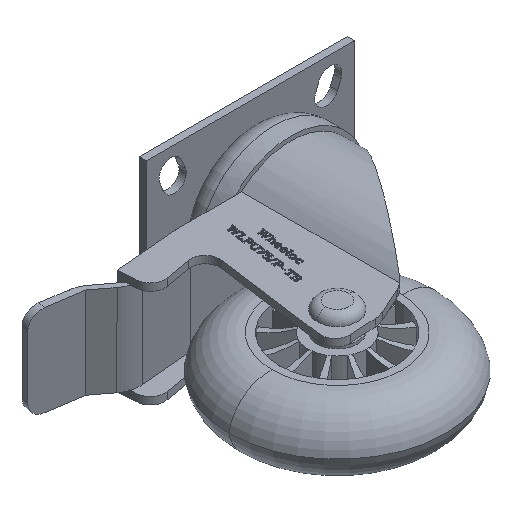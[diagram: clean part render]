
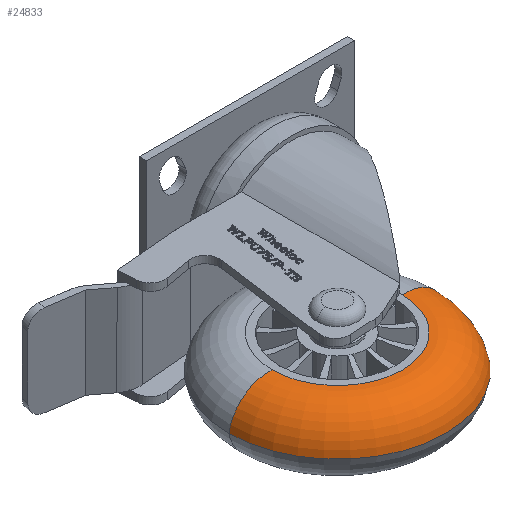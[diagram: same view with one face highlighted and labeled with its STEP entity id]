
A CAD part, isometric view. The second image highlights one B-rep face of the part: STEP entity #24833.
In plain terms, the highlighted toroidal (fillet/blend) face has major radius 23.715 mm and minor radius 14 mm.
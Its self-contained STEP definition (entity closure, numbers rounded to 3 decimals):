
#376 = EDGE_CURVE ( 'NONE', #18676, #19808, #13565, .T. ) ;
#1253 = TOROIDAL_SURFACE ( 'NONE', #12483, 23.716, 14. ) ;
#2384 = DIRECTION ( 'NONE',  ( 0., 0., -1. ) ) ;
#4228 = CARTESIAN_POINT ( 'NONE',  ( 0., 0., -37.5 ) ) ;
#4492 = CARTESIAN_POINT ( 'NONE',  ( 0., -2.447, 23.716 ) ) ;
#4932 = ORIENTED_EDGE ( 'NONE', *, *, #21289, .T. ) ;
#5536 = AXIS2_PLACEMENT_3D ( 'NONE', #4492, #13658, #24775 ) ;
#6339 = CARTESIAN_POINT ( 'NONE',  ( 0., 0., 37.5 ) ) ;
#7313 = EDGE_CURVE ( 'NONE', #18081, #18676, #26042, .T. ) ;
#7646 = DIRECTION ( 'NONE',  ( 0., -1., 0. ) ) ;
#7728 = CARTESIAN_POINT ( 'NONE',  ( 0., -2.447, 0. ) ) ;
#8815 = EDGE_CURVE ( 'NONE', #18081, #14183, #17718, .T. ) ;
#8908 = AXIS2_PLACEMENT_3D ( 'NONE', #13131, #11088, #11509 ) ;
#11088 = DIRECTION ( 'NONE',  ( -1., 0., 0. ) ) ;
#11509 = DIRECTION ( 'NONE',  ( 0., 0., 1. ) ) ;
#12137 = CIRCLE ( 'NONE', #8908, 14. ) ;
#12465 = ORIENTED_EDGE ( 'NONE', *, *, #7313, .F. ) ;
#12483 = AXIS2_PLACEMENT_3D ( 'NONE', #7728, #18252, #20871 ) ;
#13131 = CARTESIAN_POINT ( 'NONE',  ( 0., -2.447, -23.716 ) ) ;
#13565 = CIRCLE ( 'NONE', #14495, 37.5 ) ;
#13658 = DIRECTION ( 'NONE',  ( 1., 0., 0. ) ) ;
#13850 = FACE_OUTER_BOUND ( 'NONE', #25448, .T. ) ;
#14183 = VERTEX_POINT ( 'NONE', #24440 ) ;
#14495 = AXIS2_PLACEMENT_3D ( 'NONE', #17845, #15641, #2384 ) ;
#15210 = ORIENTED_EDGE ( 'NONE', *, *, #8815, .T. ) ;
#15625 = CARTESIAN_POINT ( 'NONE',  ( 0., 11.5, 22.5 ) ) ;
#15641 = DIRECTION ( 'NONE',  ( 0., -1., 0. ) ) ;
#16544 = DIRECTION ( 'NONE',  ( 0., 0., -1. ) ) ;
#17365 = ORIENTED_EDGE ( 'NONE', *, *, #376, .F. ) ;
#17718 = CIRCLE ( 'NONE', #20052, 22.5 ) ;
#17845 = CARTESIAN_POINT ( 'NONE',  ( 0., 0., 0. ) ) ;
#18081 = VERTEX_POINT ( 'NONE', #15625 ) ;
#18252 = DIRECTION ( 'NONE',  ( 0., -1., 0. ) ) ;
#18309 = CARTESIAN_POINT ( 'NONE',  ( 0., 11.5, 0. ) ) ;
#18676 = VERTEX_POINT ( 'NONE', #6339 ) ;
#19808 = VERTEX_POINT ( 'NONE', #4228 ) ;
#20052 = AXIS2_PLACEMENT_3D ( 'NONE', #18309, #7646, #16544 ) ;
#20871 = DIRECTION ( 'NONE',  ( 0., 0., -1. ) ) ;
#21289 = EDGE_CURVE ( 'NONE', #14183, #19808, #12137, .T. ) ;
#24440 = CARTESIAN_POINT ( 'NONE',  ( 0., 11.5, -22.5 ) ) ;
#24775 = DIRECTION ( 'NONE',  ( 0., 0., -1. ) ) ;
#24833 = ADVANCED_FACE ( 'NONE', ( #13850 ), #1253, .T. ) ;
#25448 = EDGE_LOOP ( 'NONE', ( #12465, #15210, #4932, #17365 ) ) ;
#26042 = CIRCLE ( 'NONE', #5536, 14. ) ;
